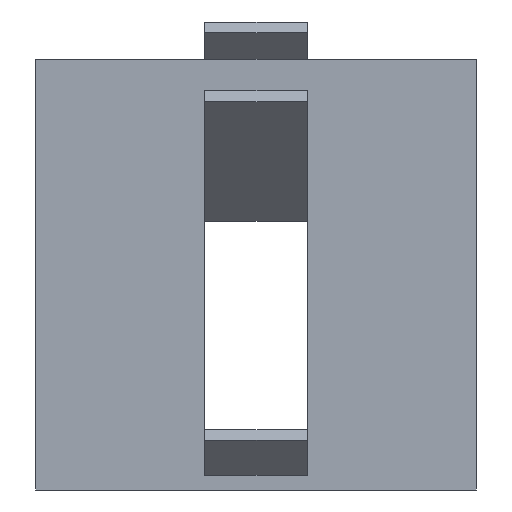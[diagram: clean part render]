
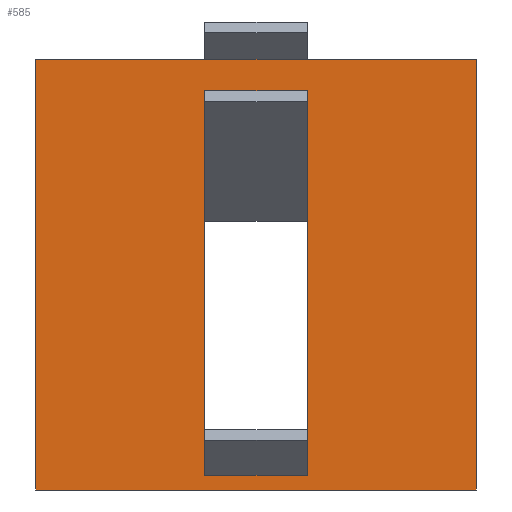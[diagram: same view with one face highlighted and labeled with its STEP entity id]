
A CAD part, left-side view. The second image highlights one B-rep face of the part: STEP entity #585.
In plain terms, the highlighted planar face has unit normal (-1, 0, 0).
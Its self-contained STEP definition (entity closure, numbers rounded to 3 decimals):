
#1=DIRECTION('',(0.,0.,1.));
#2=VECTOR('',#1,42.);
#3=CARTESIAN_POINT('',(0.,-21.5,-42.));
#4=LINE('',#3,#2);
#21=DIRECTION('',(0.,1.,0.));
#22=VECTOR('',#21,43.);
#23=CARTESIAN_POINT('',(0.,-21.5,-42.));
#24=LINE('',#23,#22);
#25=DIRECTION('',(0.,1.,0.));
#26=VECTOR('',#25,10.);
#27=CARTESIAN_POINT('',(0.,-5.,-40.586));
#28=LINE('',#27,#26);
#29=DIRECTION('',(0.,0.,-1.));
#30=VECTOR('',#29,2.121);
#31=CARTESIAN_POINT('',(0.,-5.,-38.464));
#32=LINE('',#31,#30);
#33=DIRECTION('',(0.,-1.,0.));
#34=VECTOR('',#33,10.);
#35=CARTESIAN_POINT('',(0.,5.,-38.464));
#36=LINE('',#35,#34);
#37=DIRECTION('',(0.,0.,1.));
#38=VECTOR('',#37,2.121);
#39=CARTESIAN_POINT('',(0.,5.,-40.586));
#40=LINE('',#39,#38);
#41=DIRECTION('',(0.,1.,0.));
#42=VECTOR('',#41,10.);
#43=CARTESIAN_POINT('',(0.,-5.,-36.101));
#44=LINE('',#43,#42);
#45=DIRECTION('',(0.,0.,-1.));
#46=VECTOR('',#45,2.121);
#47=CARTESIAN_POINT('',(0.,-5.,-5.657));
#48=LINE('',#47,#46);
#49=DIRECTION('',(0.,-1.,0.));
#50=VECTOR('',#49,10.);
#51=CARTESIAN_POINT('',(0.,5.,-5.657));
#52=LINE('',#51,#50);
#53=DIRECTION('',(0.,0.,1.));
#54=VECTOR('',#53,2.121);
#55=CARTESIAN_POINT('',(0.,5.,-7.778));
#56=LINE('',#55,#54);
#145=DIRECTION('',(0.,1.,0.));
#146=VECTOR('',#145,43.);
#147=CARTESIAN_POINT('',(0.,-21.5,0.));
#148=LINE('',#147,#146);
#181=DIRECTION('',(0.,0.,1.));
#182=VECTOR('',#181,42.);
#183=CARTESIAN_POINT('',(0.,21.5,-42.));
#184=LINE('',#183,#182);
#365=DIRECTION('',(0.,0.,1.));
#366=VECTOR('',#365,28.322);
#367=CARTESIAN_POINT('',(0.,5.,-36.101));
#368=LINE('',#367,#366);
#381=DIRECTION('',(0.,0.,-1.));
#382=VECTOR('',#381,28.322);
#383=CARTESIAN_POINT('',(0.,-5.,-7.778));
#384=LINE('',#383,#382);
#401=CARTESIAN_POINT('',(0.,-21.5,-42.));
#402=CARTESIAN_POINT('',(0.,-21.5,0.));
#403=VERTEX_POINT('',#401);
#404=VERTEX_POINT('',#402);
#411=CARTESIAN_POINT('',(0.,21.5,-42.));
#412=CARTESIAN_POINT('',(0.,21.5,0.));
#413=VERTEX_POINT('',#411);
#414=VERTEX_POINT('',#412);
#465=CARTESIAN_POINT('',(0.,5.,-7.778));
#466=CARTESIAN_POINT('',(0.,5.,-5.657));
#467=VERTEX_POINT('',#465);
#468=VERTEX_POINT('',#466);
#469=CARTESIAN_POINT('',(0.,-5.,-5.657));
#470=VERTEX_POINT('',#469);
#471=CARTESIAN_POINT('',(0.,-5.,-7.778));
#472=VERTEX_POINT('',#471);
#497=CARTESIAN_POINT('',(0.,-5.,-40.586));
#498=CARTESIAN_POINT('',(0.,5.,-40.586));
#499=VERTEX_POINT('',#497);
#500=VERTEX_POINT('',#498);
#501=CARTESIAN_POINT('',(0.,5.,-38.464));
#502=VERTEX_POINT('',#501);
#503=CARTESIAN_POINT('',(0.,-5.,-38.464));
#504=VERTEX_POINT('',#503);
#521=CARTESIAN_POINT('',(0.,-5.,-36.101));
#522=CARTESIAN_POINT('',(0.,5.,-36.101));
#523=VERTEX_POINT('',#521);
#524=VERTEX_POINT('',#522);
#547=CARTESIAN_POINT('',(0.,-21.5,-42.));
#548=DIRECTION('',(-1.,0.,0.));
#549=DIRECTION('',(0.,0.,1.));
#550=AXIS2_PLACEMENT_3D('',#547,#548,#549);
#551=PLANE('',#550);
#552=ORIENTED_EDGE('',*,*,#534,.F.);
#554=ORIENTED_EDGE('',*,*,#553,.T.);
#556=ORIENTED_EDGE('',*,*,#555,.T.);
#558=ORIENTED_EDGE('',*,*,#557,.F.);
#559=EDGE_LOOP('',(#552,#554,#556,#558));
#560=FACE_OUTER_BOUND('',#559,.F.);
#562=ORIENTED_EDGE('',*,*,#561,.F.);
#564=ORIENTED_EDGE('',*,*,#563,.F.);
#566=ORIENTED_EDGE('',*,*,#565,.F.);
#568=ORIENTED_EDGE('',*,*,#567,.F.);
#569=EDGE_LOOP('',(#562,#564,#566,#568));
#570=FACE_BOUND('',#569,.F.);
#572=ORIENTED_EDGE('',*,*,#571,.F.);
#574=ORIENTED_EDGE('',*,*,#573,.F.);
#576=ORIENTED_EDGE('',*,*,#575,.F.);
#578=ORIENTED_EDGE('',*,*,#577,.F.);
#580=ORIENTED_EDGE('',*,*,#579,.F.);
#582=ORIENTED_EDGE('',*,*,#581,.F.);
#583=EDGE_LOOP('',(#572,#574,#576,#578,#580,#582));
#584=FACE_BOUND('',#583,.F.);
#585=ADVANCED_FACE('',(#560,#570,#584),#551,.T.);
#534=EDGE_CURVE('',#403,#404,#4,.T.);
#553=EDGE_CURVE('',#403,#413,#24,.T.);
#555=EDGE_CURVE('',#413,#414,#184,.T.);
#557=EDGE_CURVE('',#404,#414,#148,.T.);
#561=EDGE_CURVE('',#499,#500,#28,.T.);
#563=EDGE_CURVE('',#504,#499,#32,.T.);
#565=EDGE_CURVE('',#502,#504,#36,.T.);
#567=EDGE_CURVE('',#500,#502,#40,.T.);
#571=EDGE_CURVE('',#524,#467,#368,.T.);
#573=EDGE_CURVE('',#523,#524,#44,.T.);
#575=EDGE_CURVE('',#472,#523,#384,.T.);
#577=EDGE_CURVE('',#470,#472,#48,.T.);
#579=EDGE_CURVE('',#468,#470,#52,.T.);
#581=EDGE_CURVE('',#467,#468,#56,.T.);
